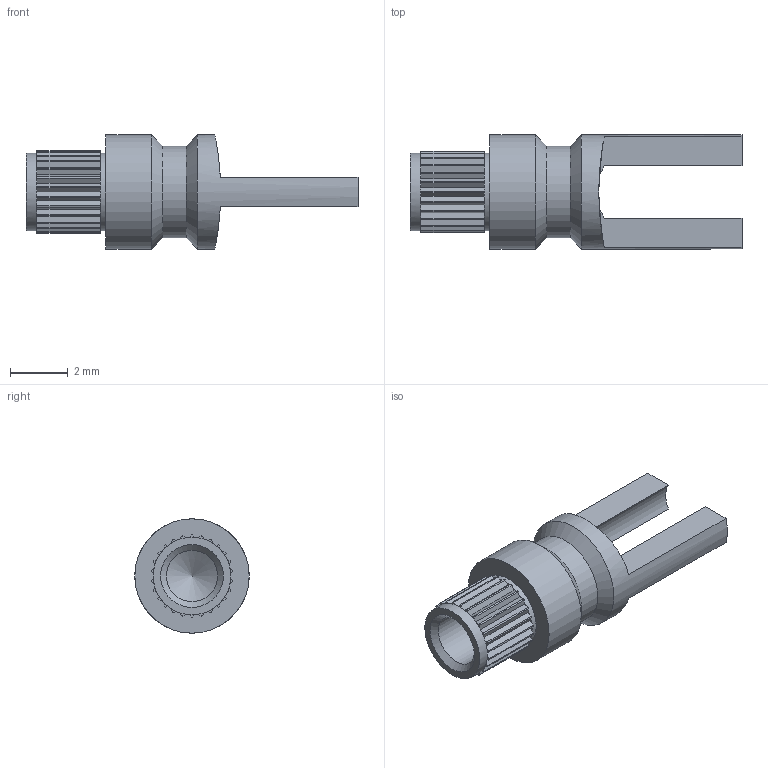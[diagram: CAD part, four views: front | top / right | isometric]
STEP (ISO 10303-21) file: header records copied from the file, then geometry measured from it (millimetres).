
FILE_DESCRIPTION(/* description */ (''),/* implementation_level */ '2;1');
FILE_NAME(/* name */ 'Z:\STEP folder\140-1937-02.ipt.stp',/* time_stamp */ '2016-12-07T10:39:57+00:00',/* author */ ('Paul Karlsons'),/* organization */ (''),/* preprocessor_version */ 'ST-DEVELOPER v15.2',/* originating_system */ 'Autodesk Inventor 2014',/* authorisation */ '');
FILE_SCHEMA (('AUTOMOTIVE_DESIGN { 1 0 10303 214 3 1 1 }'));
Length unit declared in the file: millimetre
Products named in the file (1): 140-1937-02
Bounding box: 11.51 x 3.96 x 3.96 mm (x, y, z)
Volume: 60.5 mm3; surface area: 158.6 mm2
Topology: 1 solids, 1 shells, 205 faces, 498 edges, 295 vertices
Faces by surface type: plane 164, cylinder 36, cone 5
Full cylindrical faces by diameter (mm): 1.778 x1, 2.692 x2, 3.175 x1, 3.962 x2
Entity records: 5869 total; most frequent: DIRECTION 1062, CARTESIAN_POINT 1046, ORIENTED_EDGE 964, EDGE_CURVE 482, AXIS2_PLACEMENT_3D 382, LINE 298, VECTOR 298, VERTEX_POINT 290
